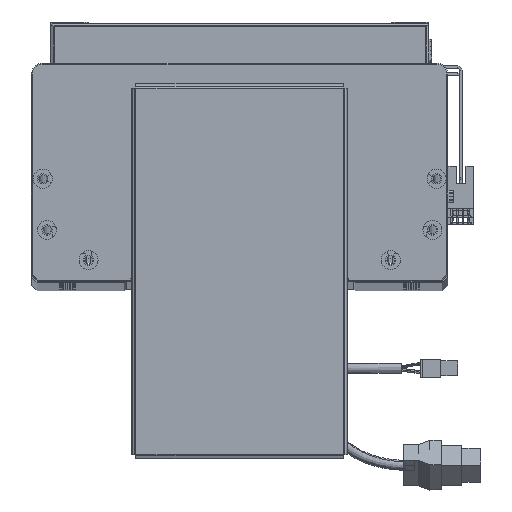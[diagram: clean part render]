
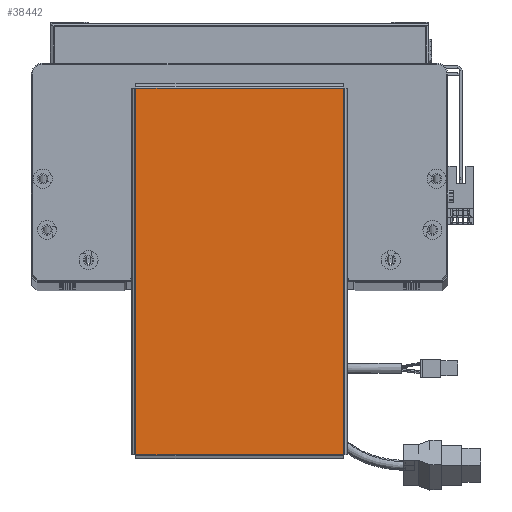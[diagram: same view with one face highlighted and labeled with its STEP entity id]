
A CAD part, top view. The second image highlights one B-rep face of the part: STEP entity #38442.
In plain terms, the highlighted planar face has unit normal (0, 0, 1).
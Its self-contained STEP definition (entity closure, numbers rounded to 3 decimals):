
#1831 = LINE ( 'NONE', #25178, #54626 ) ;
#2718 = VECTOR ( 'NONE', #35685, 1000. ) ;
#3193 = EDGE_CURVE ( 'NONE', #49195, #35877, #1831, .T. ) ;
#3735 = VECTOR ( 'NONE', #29658, 1000. ) ;
#9953 = LINE ( 'NONE', #51275, #3735 ) ;
#15450 = DIRECTION ( 'NONE',  ( 1., 0., 0. ) ) ;
#17231 = FACE_OUTER_BOUND ( 'NONE', #35096, .T. ) ;
#20160 = CARTESIAN_POINT ( 'NONE',  ( 96.793, 54.763, 0. ) ) ;
#23626 = VECTOR ( 'NONE', #25820, 1000. ) ;
#24194 = VERTEX_POINT ( 'NONE', #44645 ) ;
#25178 = CARTESIAN_POINT ( 'NONE',  ( -96.793, -54.763, 0. ) ) ;
#25820 = DIRECTION ( 'NONE',  ( -1., 0., 0. ) ) ;
#29658 = DIRECTION ( 'NONE',  ( 0., -1., 0. ) ) ;
#30108 = CARTESIAN_POINT ( 'NONE',  ( 96.763, -54.763, 0. ) ) ;
#31530 = LINE ( 'NONE', #20160, #23626 ) ;
#35096 = EDGE_LOOP ( 'NONE', ( #68745, #67858, #44507, #58921 ) ) ;
#35685 = DIRECTION ( 'NONE',  ( 0., 1., 0. ) ) ;
#35832 = AXIS2_PLACEMENT_3D ( 'NONE', #55465, #61154, #15450 ) ;
#35877 = VERTEX_POINT ( 'NONE', #30108 ) ;
#36442 = EDGE_CURVE ( 'NONE', #24194, #47215, #31530, .T. ) ;
#38442 = ADVANCED_FACE ( 'NONE', ( #17231 ), #65853, .T. ) ;
#44507 = ORIENTED_EDGE ( 'NONE', *, *, #36442, .T. ) ;
#44645 = CARTESIAN_POINT ( 'NONE',  ( 96.763, 54.763, 0. ) ) ;
#44830 = CARTESIAN_POINT ( 'NONE',  ( -96.763, -54.763, 0. ) ) ;
#47215 = VERTEX_POINT ( 'NONE', #60994 ) ;
#47569 = LINE ( 'NONE', #64474, #2718 ) ;
#49195 = VERTEX_POINT ( 'NONE', #44830 ) ;
#51275 = CARTESIAN_POINT ( 'NONE',  ( -96.763, 54.793, 0. ) ) ;
#54626 = VECTOR ( 'NONE', #58437, 1000. ) ;
#55465 = CARTESIAN_POINT ( 'NONE',  ( 0., 0., 0. ) ) ;
#57846 = EDGE_CURVE ( 'NONE', #47215, #49195, #9953, .T. ) ;
#58437 = DIRECTION ( 'NONE',  ( 1., 0., 0. ) ) ;
#58921 = ORIENTED_EDGE ( 'NONE', *, *, #57846, .T. ) ;
#60994 = CARTESIAN_POINT ( 'NONE',  ( -96.763, 54.763, 0. ) ) ;
#61154 = DIRECTION ( 'NONE',  ( 0., 0., 1. ) ) ;
#63723 = EDGE_CURVE ( 'NONE', #35877, #24194, #47569, .T. ) ;
#64474 = CARTESIAN_POINT ( 'NONE',  ( 96.763, -54.793, 0. ) ) ;
#65853 = PLANE ( 'NONE',  #35832 ) ;
#67858 = ORIENTED_EDGE ( 'NONE', *, *, #63723, .T. ) ;
#68745 = ORIENTED_EDGE ( 'NONE', *, *, #3193, .T. ) ;
